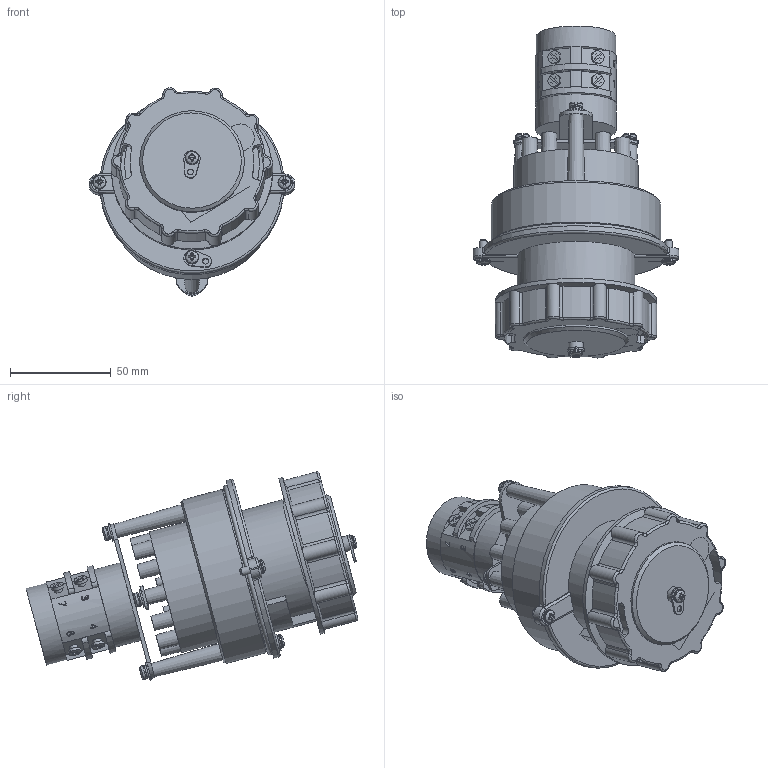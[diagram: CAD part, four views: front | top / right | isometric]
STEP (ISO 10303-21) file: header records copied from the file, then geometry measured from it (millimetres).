
FILE_DESCRIPTION((''),'2;1');
FILE_NAME('C:\Users\L.A.Ronzhin\Desktop\Публикации\РГВК-16-250-2.stp','2020-07-17T16:21:14',('L.A.Ronzhin'),(''),'Autodesk Inventor 2012','Autodesk Inventor 2012','');
FILE_SCHEMA(('AUTOMOTIVE_DESIGN { 1 0 10303 214 1 1 1 1 }'));
Length unit declared in the file: millimetre
Products named in the file (1): РГВК-16-250-2
Bounding box: 102 x 164.8 x 103.48 mm (x, y, z)
Surface area: 105490.9 mm2 (no closed solid volume)
Topology: 0 solids, 67 shells, 474 faces, 1870 edges, 1421 vertices
Faces by surface type: plane 199, cylinder 170, torus 71, cone 28, bspline 6
Full cylindrical faces by diameter (mm): 3 x2, 3.242 x9, 3.9 x2, 4 x8, 4.5 x3, 6.4 x8, 6.7 x1, 6.85 x4, 7.5 x1, 9 x4, 34 x1, 39.5 x1, 40 x1, 52 x2, 62 x1, 71 x1, 80 x1, 82.7 x1, 84 x1
Entity records: 28952 total; most frequent: CARTESIAN_POINT 13330, DIRECTION 3122, ORIENTED_EDGE 2562, EDGE_CURVE 1750, VERTEX_POINT 1387, AXIS2_PLACEMENT_3D 1161, VECTOR 800, LINE 800
